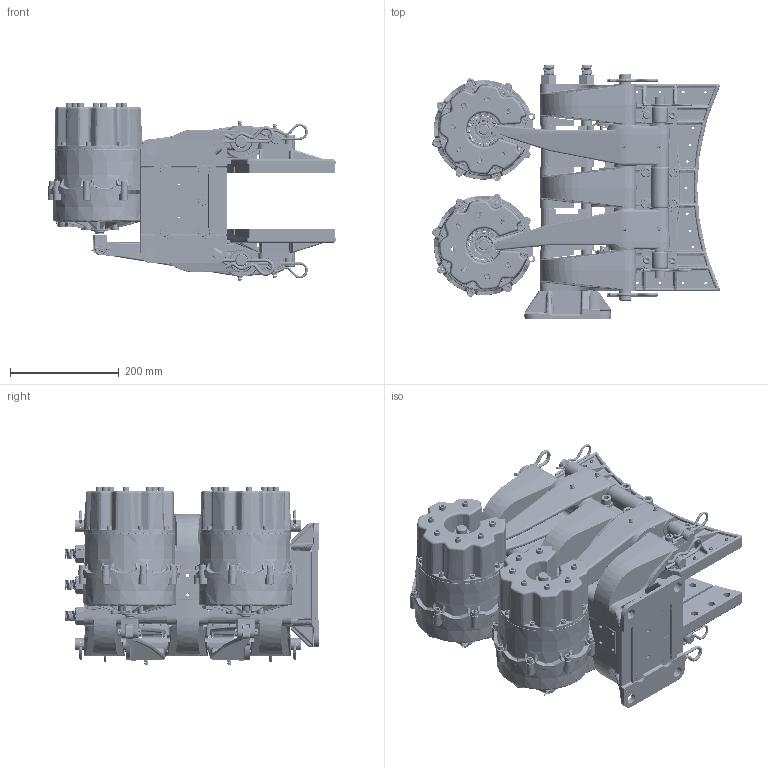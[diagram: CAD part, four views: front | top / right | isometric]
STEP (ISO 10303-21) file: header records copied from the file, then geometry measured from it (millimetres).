
FILE_DESCRIPTION (( 'STEP AP214' ), '1' );
FILE_NAME ('5026-SA-RH.STEP', '2019-09-12T23:45:30', ( '' ), ( '' ), 'SwSTEP 2.0', 'SolidWorks 2019', '' );
FILE_SCHEMA (( 'AUTOMOTIVE_DESIGN' ));
Length unit declared in the file: inch
Products named in the file (1): 5026-SA-RH
Bounding box: 528.77 x 466.73 x 327.9 mm (x, y, z)
Surface area: 2024039.8 mm2 (no closed solid volume)
Topology: 0 solids, 296 shells, 6235 faces, 19933 edges, 13342 vertices
Faces by surface type: cylinder 1848, plane 1628, bspline 1302, cone 877, torus 534, sphere 46
Entity records: 389648 total; most frequent: CARTESIAN_POINT 154399, ORIENTED_EDGE 31847, DIRECTION 29101, EDGE_CURVE 19807, VERTEX_POINT 13342, AXIS2_PLACEMENT_3D 11661, EDGE_LOOP 6881, CIRCLE 6727
